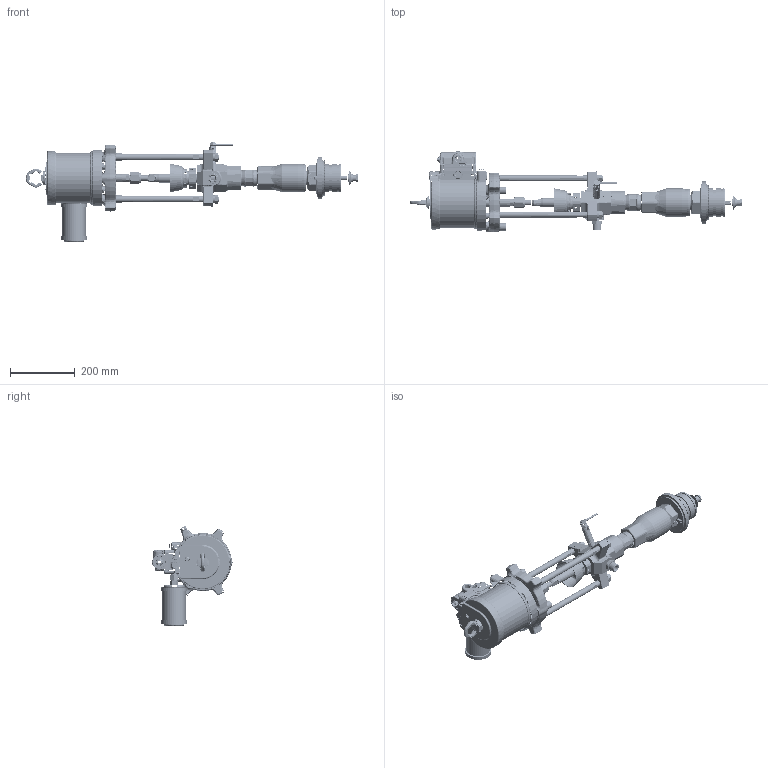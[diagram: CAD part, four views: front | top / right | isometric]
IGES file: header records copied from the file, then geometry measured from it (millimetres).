
Start section:  PTC IGES file: p20lcs-en-f.igs
Global section: file name: p20lcs-en-f.igs; native system: Creo Parametric by PTC Inc.; preprocessor: 2019030; author: qusrh3; organization: Unknown; date: 20200528.135327; units: inch
Bounding box: 1027.56 x 250.74 x 310.22 mm (x, y, z)
Surface area: 831026.3 mm2 (no closed solid volume)
Topology: 0 solids, 0 shells, 2903 faces, 16799 edges, 16787 vertices
Faces by surface type: revolution 1668, bspline 1235
